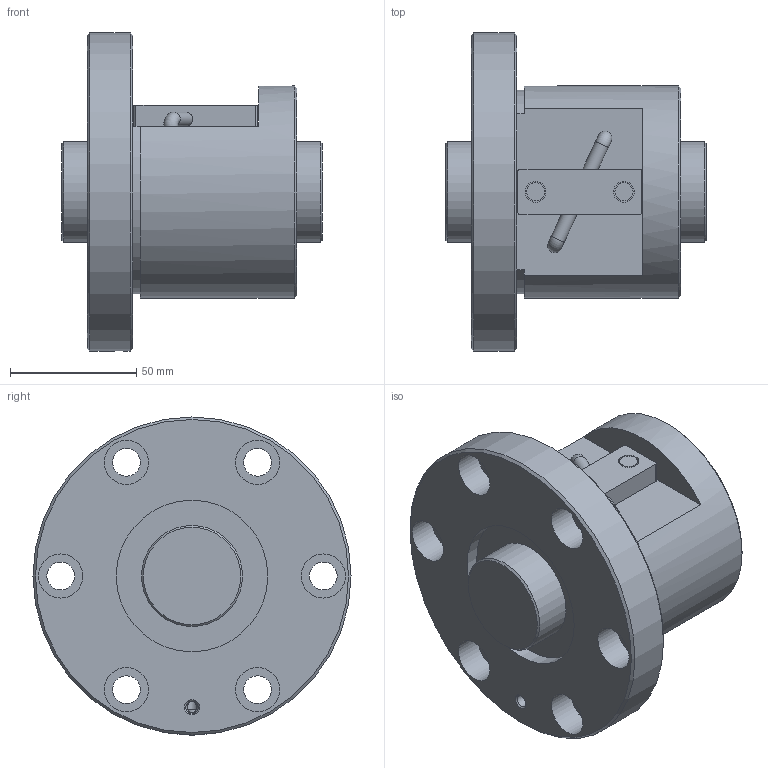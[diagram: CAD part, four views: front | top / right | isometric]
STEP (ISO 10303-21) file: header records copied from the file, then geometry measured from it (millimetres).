
FILE_DESCRIPTION(/* description */ ('STEP AP203'),/* implementation_level */ '2;1');
FILE_NAME(/* name */ 'BNF4012V-2.5RRG1+103LC0_000_rev',/* time_stamp */ '2024-08-06T08:41:09+02:00',/* author */ ('License CC BY-ND 4.0'),/* organization */ ('CADENAS'),/* preprocessor_version */ 'ST-DEVELOPER v19.3',/* originating_system */ 'PARTsolutions',/* authorisation */ ' ');
FILE_SCHEMA (('CONFIG_CONTROL_DESIGN'));
Length unit declared in the file: millimetre
Products named in the file (3): BNF4012V-2.5RRG1+103LC0_000_rev; BNF 4012-2.5RR000 Shaft; BNF 4012-2.5RR Nut
Assembly tree (2 placements, depth 2):
  BNF4012V-2.5RRG1+103LC0_000_rev
    BNF 4012-2.5RR000 Shaft
    BNF 4012-2.5RR Nut
Bounding box: 103 x 126 x 126 mm (x, y, z)
Volume: 542147.6 mm3; surface area: 80577.6 mm2
Topology: 2 solids, 2 shells, 69 faces, 148 edges, 96 vertices
Faces by surface type: cylinder 33, plane 27, cone 7, torus 2
Full cylindrical faces by diameter (mm): 4.5 x2, 4.917 x1, 5.598 x2, 7.2 x2, 8.2 x2, 11 x6, 17.5 x6, 40 x2, 60 x2, 84 x1, 126 x1
Entity records: 1755 total; most frequent: DIRECTION 312, CARTESIAN_POINT 296, ORIENTED_EDGE 200, AXIS2_PLACEMENT_3D 144, EDGE_LOOP 140, FACE_BOUND 140, EDGE_CURVE 100, VERTEX_POINT 86
